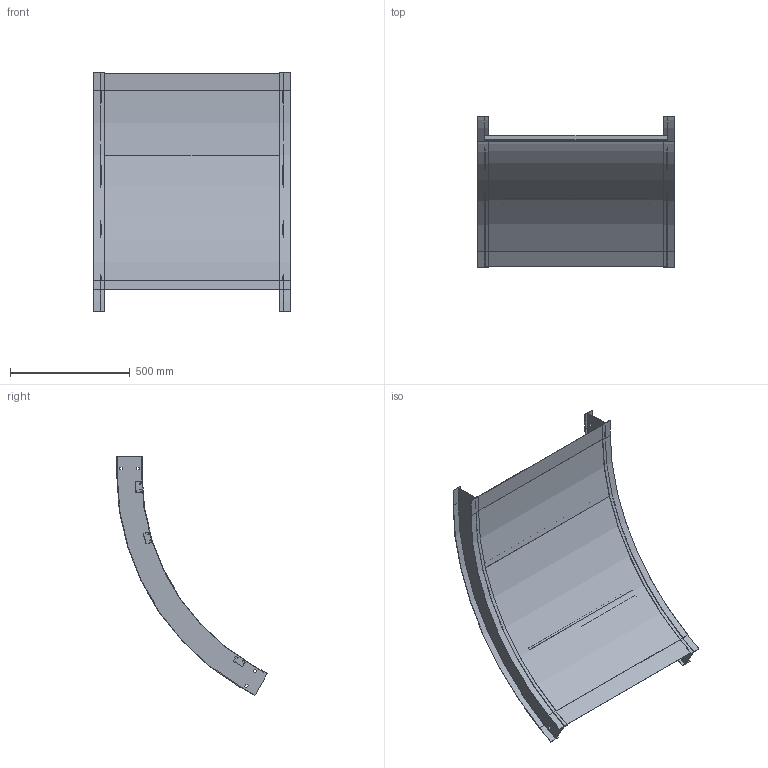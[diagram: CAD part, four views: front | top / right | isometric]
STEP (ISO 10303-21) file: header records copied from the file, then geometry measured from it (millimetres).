
FILE_DESCRIPTION((''),'2;1');
FILE_NAME('AHF430SVO6036_ASM','2010-02-02T',('erouzier'),(''),'PRO/ENGINEER BY PARAMETRIC TECHNOLOGY CORPORATION, 2008510','PRO/ENGINEER BY PARAMETRIC TECHNOLOGY CORPORATION, 2008510','');
FILE_SCHEMA(('CONFIG_CONTROL_DESIGN'));
Length unit declared in the file: inch
Products named in the file (5): CDS001658_4_60_36; CDS002159L30; CDS002159L24-P; ED04591_60_36_30; AHF430SVO6036_ASM
Assembly tree (8 placements, depth 2):
  AHF430SVO6036_ASM
    CDS001658_4_60_36  x2
    CDS002159L30  x3
    CDS002159L24-P  x2
    ED04591_60_36_30
Bounding box: 822.2 x 629.24 x 998.03 mm (x, y, z)
Volume: 2201341.7 mm3; surface area: 3393314.3 mm2
Topology: 8 solids, 8 shells, 600 faces, 1744 edges, 1160 vertices
Faces by surface type: plane 355, cylinder 245
Entity records: 9895 total; most frequent: CARTESIAN_POINT 1709, DIRECTION 1690, ORIENTED_EDGE 1688, EDGE_CURVE 844, VECTOR 608, LINE 608, VERTEX_POINT 560, AXIS2_PLACEMENT_3D 541
